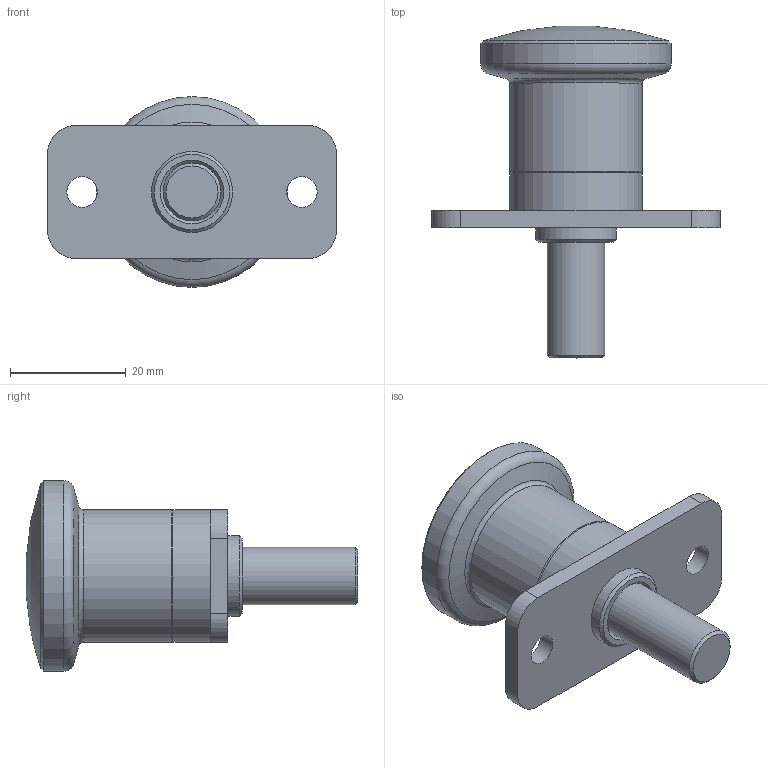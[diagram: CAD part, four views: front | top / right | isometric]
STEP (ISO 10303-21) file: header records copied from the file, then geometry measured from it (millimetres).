
FILE_DESCRIPTION( ( 'STEP AP203' ), '1' );
FILE_NAME( 'C:/Temp/Ganter_Step_05_03_2020/data/3_1/gn822_9/gn822_9_b/Stainless Steel-Mini indexing plunger GN 822.9-10-20-B (deactivated).stp', '2020-03-12T09:24:37', ( 'License CC BY-ND 4.0' ), ( 'CADENAS' ), ' ', 'PARTsolutions', ' ' );
FILE_SCHEMA( ( 'CONFIG_CONTROL_DESIGN' ) );
Length unit declared in the file: millimetre
Products named in the file (3): Stainless Steel-Mini indexing plunger GN 822.9-10-20-B (deactivated); _Stainless Steel-Mini indexing plunger GN 822.9-10-20-B (deactivated)_1; _Stainless Steel-Mini indexing plunger GN 822.9-10-20-B (unbetaetigt)_2
Assembly tree (2 placements, depth 2):
  Stainless Steel-Mini indexing plunger GN 822.9-10-20-B (deactivated)
    _Stainless Steel-Mini indexing plunger GN 822.9-10-20-B (deactivated)_1
    _Stainless Steel-Mini indexing plunger GN 822.9-10-20-B (unbetaetigt)_2
Bounding box: 50 x 57.42 x 33 mm (x, y, z)
Volume: 20029.3 mm3; surface area: 11691.6 mm2
Topology: 2 solids, 2 shells, 66 faces, 155 edges, 99 vertices
Faces by surface type: plane 34, cylinder 20, cone 8, torus 3, sphere 1
Full cylindrical faces by diameter (mm): 5.3 x2, 7.5 x2, 10 x2, 14 x1, 23 x2, 33 x1
Entity records: 1998 total; most frequent: CARTESIAN_POINT 447, DIRECTION 308, ORIENTED_EDGE 260, EDGE_CURVE 130, AXIS2_PLACEMENT_3D 121, EDGE_LOOP 100, VERTEX_POINT 96, FACE_OUTER_BOUND 80
